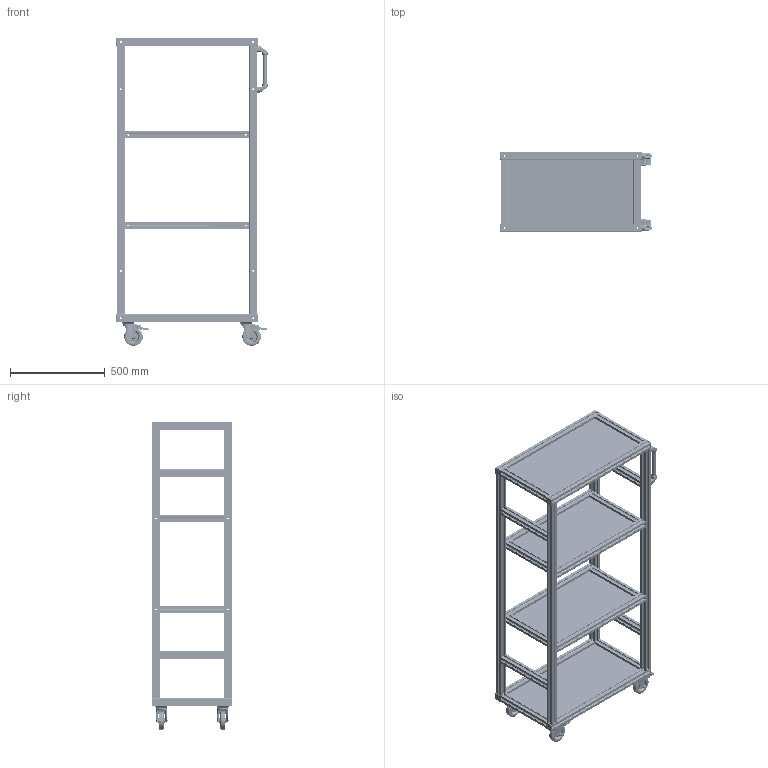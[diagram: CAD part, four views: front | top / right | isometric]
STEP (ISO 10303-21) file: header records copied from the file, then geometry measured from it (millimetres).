
FILE_DESCRIPTION(('STEP AP203'), '1');
FILE_NAME('ÀÌ04040.07041501 _ Ñòîéêà äëÿ èíñòðóìåíòà', '', ('UNSPECIFIED'), ('UNSPECIFIED'), 'C3D Converter', 'C3D Toolkit', '');
FILE_SCHEMA(('CONFIG_CONTROL_DESIGN'));
Length unit declared in the file: millimetre
Products named in the file (36): АМ04040.07041501; 3; 536302; 531132; Shaft CB-CR 100-M8-30-1239; SRP/SL (100-3-95x80-30127)-b; 1003095x801279-bf; Nut M8(100-30-12-45GREY); Bolt M8(12-100-30-55GREY)
Assembly tree (50 placements, depth 3):
  АМ04040.07041501
    (unnamed)  x4
    (unnamed)  x3
    (unnamed)
    3  x8
    536302  x4
      531132
      Shaft CB-CR 100-M8-30-1239
      SRP/SL (100-3-95x80-30127)-b
      1003095x801279-bf
      Nut M8(100-30-12-45GREY)
      Bolt M8(12-100-30-55GREY)
    (unnamed)
    (unnamed)
    (unnamed)
    (unnamed)
    (unnamed)
    (unnamed)
    (unnamed)
    (unnamed)
    (unnamed)
    (unnamed)
    (unnamed)
    (unnamed)
    (unnamed)
    (unnamed)
    (unnamed)
    (unnamed)
    (unnamed)
    (unnamed)
    (unnamed)
    (unnamed)
    (unnamed)
    (unnamed)
    (unnamed)
    (unnamed)
Bounding box: 799.5 x 420 x 1626 mm (x, y, z)
Volume: 20320883.1 mm3; surface area: 9605499.3 mm2
Topology: 70 solids, 70 shells, 8876 faces, 25940 edges, 17128 vertices
Faces by surface type: plane 4384, cylinder 3720, cone 240, torus 236, extrusion 180, bspline 72, sphere 44
Full cylindrical faces by diameter (mm): 4 x8, 5 x4, 6.5 x8, 6.647 x4, 8 x12, 8.2 x8, 8.5 x4, 10 x80, 11.47 x4, 11.999 x4, 12 x4, 13.999 x8, 14 x4, 16 x2, 20 x2, 20.1 x4, 21.999 x8, 22.833 x4, 29 x4, 46 x4, 52 x4, 54 x4, 59.22 x4, 59.58 x4, 61.999 x8, 62.9 x4, 71.999 x8
Entity records: 283469 total; most frequent: CARTESIAN_POINT 52523, ORIENTED_EDGE 38870, DIRECTION 36868, EDGE_CURVE 19435, VERTEX_POINT 13043, AXIS2_PLACEMENT_3D 12357, VECTOR 12154, LINE 12109
